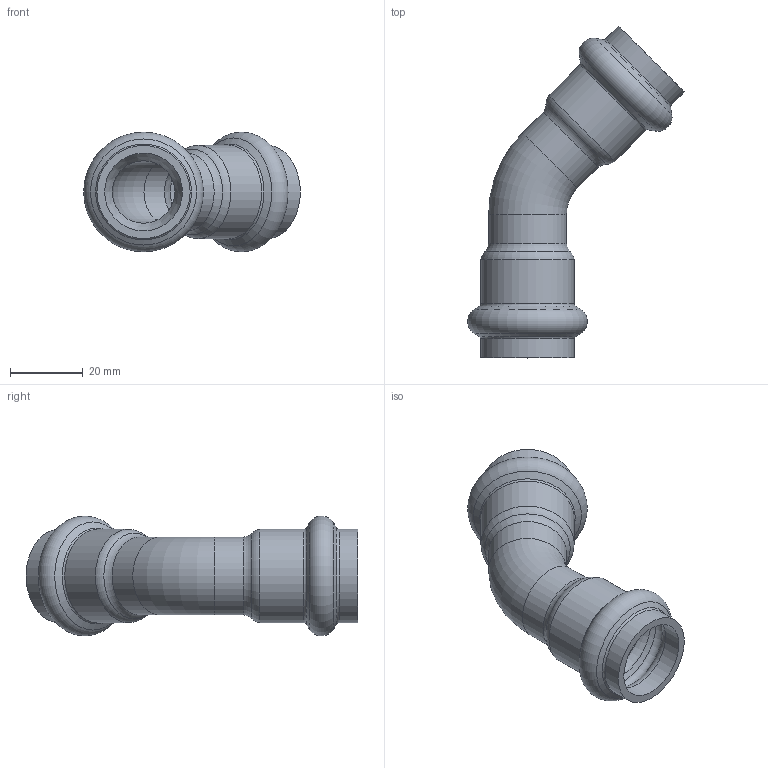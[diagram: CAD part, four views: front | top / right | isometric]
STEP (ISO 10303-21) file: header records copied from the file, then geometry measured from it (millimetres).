
FILE_DESCRIPTION(/* description */ ('VIC 45 DEG ELBOW STYLE P591 (P X P)','CAx-IF Rec.Pracs.---Representation and Presentation of Product Manufacturing Information (PMI)---4.0---2014-10-13'),/* implementation_level */ '2;1');
FILE_NAME(/* name */ 'C:\Users\Vjadhav\AppData\Roaming\Autodesk\ApplicationPlugins\Back Up\Victaulic_SS-Vic-Press-TP 304_Elbow 45 Deg_Style P591 (VP)\Victaulic_SS-Vic-Press-TP 304_Elbow 45 Deg_Style P591 (VP)_0.5 (15).stp',/* time_stamp */ '2020-08-12T16:12:50+06:00',/* author */ ('cgray'),/* organization */ ('Victaulic'),/* preprocessor_version */ 'ST-DEVELOPER v17.2',/* originating_system */ 'Autodesk Inventor 2019',/* authorisation */ '');
FILE_SCHEMA (('AP242_MANAGED_MODEL_BASED_3D_ENGINEERING_MIM_LF { 1 0 10303 442 1 1 4 }'));
Length unit declared in the file: inch
Products named in the file (1): P591-0.5
Bounding box: 59.39 x 90.99 x 32.82 mm (x, y, z)
Volume: 15351 mm3; surface area: 15009 mm2
Topology: 1 solids, 1 shells, 42 faces, 150 edges, 110 vertices
Faces by surface type: torus 18, cylinder 12, cone 10, plane 2
Full cylindrical faces by diameter (mm): 17.12 x2, 21.336 x6, 25.552 x4
Entity records: 1920 total; most frequent: DIRECTION 390, CARTESIAN_POINT 320, ORIENTED_EDGE 300, AXIS2_PLACEMENT_3D 184, EDGE_CURVE 150, CIRCLE 128, VERTEX_POINT 110, EDGE_LOOP 44
